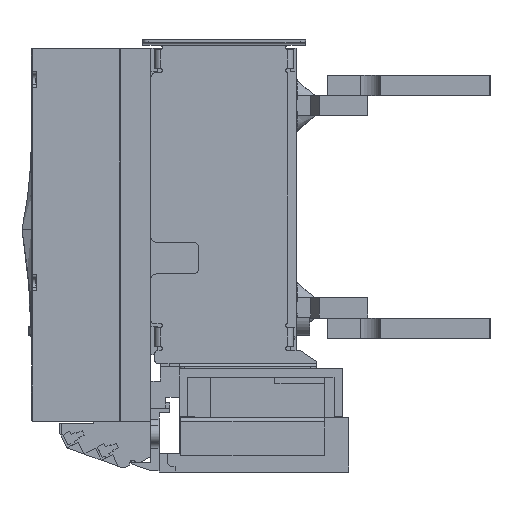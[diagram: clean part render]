
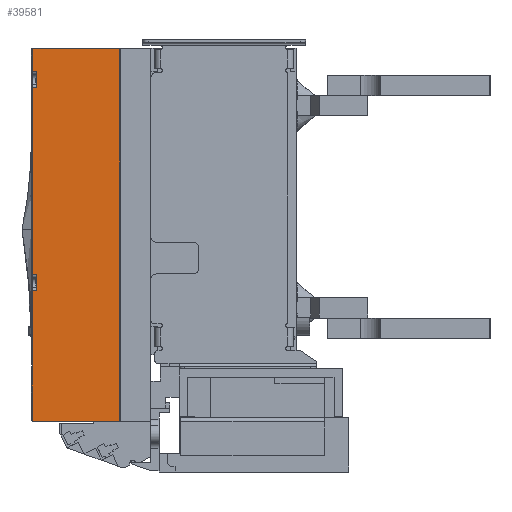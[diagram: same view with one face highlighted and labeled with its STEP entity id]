
A CAD part, left-side view. The second image highlights one B-rep face of the part: STEP entity #39581.
In plain terms, the highlighted planar face has unit normal (-1, 0, 0).
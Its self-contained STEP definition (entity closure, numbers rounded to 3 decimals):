
#32337=DIRECTION('',(0.,0.,1.));
#32338=VECTOR('',#32337,275.);
#32339=CARTESIAN_POINT('',(-105.,0.,-137.5));
#32340=LINE('',#32339,#32338);
#32464=DIRECTION('',(0.,0.,-1.));
#32465=VECTOR('',#32464,11.5);
#32466=CARTESIAN_POINT('',(-105.,84.,120.25));
#32467=LINE('',#32466,#32465);
#32485=DIRECTION('',(0.,0.,-1.));
#32486=VECTOR('',#32485,11.5);
#32487=CARTESIAN_POINT('',(-105.,84.,-29.75));
#32488=LINE('',#32487,#32486);
#32877=DIRECTION('',(0.,0.,-1.));
#32878=VECTOR('',#32877,96.25);
#32879=CARTESIAN_POINT('',(-105.,87.5,-41.25));
#32880=LINE('',#32879,#32878);
#32946=DIRECTION('',(0.,1.,0.));
#32947=VECTOR('',#32946,3.5);
#32948=CARTESIAN_POINT('',(-105.,84.,-41.25));
#32949=LINE('',#32948,#32947);
#33076=DIRECTION('',(0.,0.,1.));
#33077=VECTOR('',#33076,138.5);
#33078=CARTESIAN_POINT('',(-105.,87.5,-29.75));
#33079=LINE('',#33078,#33077);
#33207=DIRECTION('',(0.,0.,1.));
#33208=VECTOR('',#33207,17.25);
#33209=CARTESIAN_POINT('',(-105.,87.5,120.25));
#33210=LINE('',#33209,#33208);
#33435=DIRECTION('',(0.,1.,0.));
#33436=VECTOR('',#33435,87.5);
#33437=CARTESIAN_POINT('',(-105.,0.,137.5));
#33438=LINE('',#33437,#33436);
#33442=DIRECTION('',(0.,-1.,0.));
#33443=VECTOR('',#33442,3.5);
#33444=CARTESIAN_POINT('',(-105.,87.5,120.25));
#33445=LINE('',#33444,#33443);
#33501=DIRECTION('',(0.,1.,0.));
#33502=VECTOR('',#33501,3.5);
#33503=CARTESIAN_POINT('',(-105.,84.,108.75));
#33504=LINE('',#33503,#33502);
#33508=DIRECTION('',(0.,-1.,0.));
#33509=VECTOR('',#33508,3.5);
#33510=CARTESIAN_POINT('',(-105.,87.5,-29.75));
#33511=LINE('',#33510,#33509);
#33552=DIRECTION('',(0.,-1.,0.));
#33553=VECTOR('',#33552,87.5);
#33554=CARTESIAN_POINT('',(-105.,87.5,-137.5));
#33555=LINE('',#33554,#33553);
#38021=CARTESIAN_POINT('',(-105.,0.,-137.5));
#38022=CARTESIAN_POINT('',(-105.,0.,137.5));
#38023=VERTEX_POINT('',#38021);
#38024=VERTEX_POINT('',#38022);
#38785=CARTESIAN_POINT('',(-105.,84.,108.75));
#38786=VERTEX_POINT('',#38785);
#38787=CARTESIAN_POINT('',(-105.,84.,120.25));
#38788=VERTEX_POINT('',#38787);
#38789=CARTESIAN_POINT('',(-105.,84.,-41.25));
#38790=VERTEX_POINT('',#38789);
#38791=CARTESIAN_POINT('',(-105.,84.,-29.75));
#38792=VERTEX_POINT('',#38791);
#38801=CARTESIAN_POINT('',(-105.,87.5,-41.25));
#38803=VERTEX_POINT('',#38801);
#38819=CARTESIAN_POINT('',(-105.,87.5,-29.75));
#38820=VERTEX_POINT('',#38819);
#38823=CARTESIAN_POINT('',(-105.,87.5,108.75));
#38824=VERTEX_POINT('',#38823);
#38843=CARTESIAN_POINT('',(-105.,87.5,120.25));
#38844=VERTEX_POINT('',#38843);
#38845=CARTESIAN_POINT('',(-105.,87.5,137.5));
#38846=VERTEX_POINT('',#38845);
#38921=CARTESIAN_POINT('',(-105.,87.5,-137.5));
#38923=VERTEX_POINT('',#38921);
#39554=CARTESIAN_POINT('',(-105.,0.,-137.5));
#39555=DIRECTION('',(-1.,0.,0.));
#39556=DIRECTION('',(0.,0.,1.));
#39557=AXIS2_PLACEMENT_3D('',#39554,#39555,#39556);
#39558=PLANE('',#39557);
#39559=ORIENTED_EDGE('',*,*,#39537,.F.);
#39561=ORIENTED_EDGE('',*,*,#39560,.F.);
#39562=ORIENTED_EDGE('',*,*,#39212,.F.);
#39564=ORIENTED_EDGE('',*,*,#39563,.F.);
#39566=ORIENTED_EDGE('',*,*,#39565,.T.);
#39568=ORIENTED_EDGE('',*,*,#39567,.F.);
#39569=ORIENTED_EDGE('',*,*,#39186,.F.);
#39571=ORIENTED_EDGE('',*,*,#39570,.F.);
#39573=ORIENTED_EDGE('',*,*,#39572,.T.);
#39575=ORIENTED_EDGE('',*,*,#39574,.F.);
#39576=ORIENTED_EDGE('',*,*,#39088,.F.);
#39578=ORIENTED_EDGE('',*,*,#39577,.F.);
#39579=EDGE_LOOP('',(#39559,#39561,#39562,#39564,#39566,#39568,#39569,#39571,
#39573,#39575,#39576,#39578));
#39580=FACE_OUTER_BOUND('',#39579,.F.);
#39581=ADVANCED_FACE('',(#39580),#39558,.T.);
#39088=EDGE_CURVE('',#38023,#38024,#32340,.T.);
#39186=EDGE_CURVE('',#38788,#38786,#32467,.T.);
#39212=EDGE_CURVE('',#38792,#38790,#32488,.T.);
#39537=EDGE_CURVE('',#38803,#38923,#32880,.T.);
#39560=EDGE_CURVE('',#38790,#38803,#32949,.T.);
#39563=EDGE_CURVE('',#38820,#38792,#33511,.T.);
#39565=EDGE_CURVE('',#38820,#38824,#33079,.T.);
#39567=EDGE_CURVE('',#38786,#38824,#33504,.T.);
#39570=EDGE_CURVE('',#38844,#38788,#33445,.T.);
#39572=EDGE_CURVE('',#38844,#38846,#33210,.T.);
#39574=EDGE_CURVE('',#38024,#38846,#33438,.T.);
#39577=EDGE_CURVE('',#38923,#38023,#33555,.T.);
